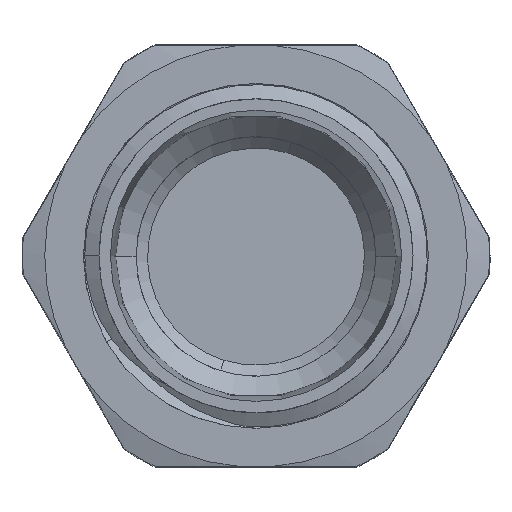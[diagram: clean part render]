
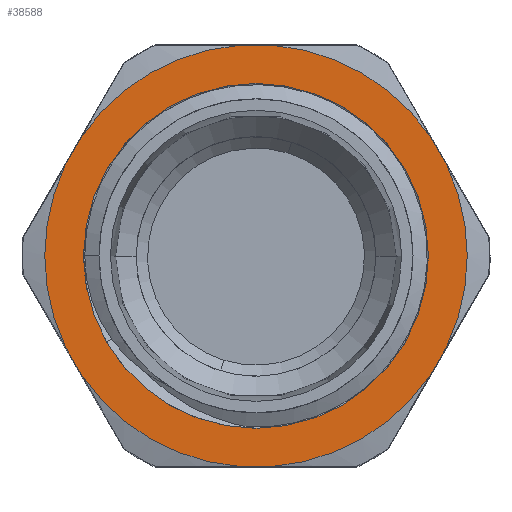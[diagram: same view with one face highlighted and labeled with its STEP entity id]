
A CAD part, top view. The second image highlights one B-rep face of the part: STEP entity #38588.
In plain terms, the highlighted planar face has unit normal (0, 0, 1).
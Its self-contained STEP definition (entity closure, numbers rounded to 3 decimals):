
#624 = VERTEX_POINT ( 'NONE', #7939 ) ;
#934 = VERTEX_POINT ( 'NONE', #31363 ) ;
#1098 = ORIENTED_EDGE ( 'NONE', *, *, #34465, .F. ) ;
#1140 = EDGE_LOOP ( 'NONE', ( #6735, #3898 ) ) ;
#1406 = CIRCLE ( 'NONE', #13004, 18.5 ) ;
#2571 = EDGE_CURVE ( 'NONE', #934, #21751, #50374, .T. ) ;
#2581 = ORIENTED_EDGE ( 'NONE', *, *, #43711, .F. ) ;
#2783 = PLANE ( 'NONE',  #26952 ) ;
#3362 = CARTESIAN_POINT ( 'NONE',  ( -10.681, -18.443, 6.5 ) ) ;
#3885 = DIRECTION ( 'NONE',  ( -0.5, -0.866, 0. ) ) ;
#3898 = ORIENTED_EDGE ( 'NONE', *, *, #39167, .F. ) ;
#4473 = AXIS2_PLACEMENT_3D ( 'NONE', #9083, #17730, #21648 ) ;
#4579 = ORIENTED_EDGE ( 'NONE', *, *, #24033, .F. ) ;
#5308 = DIRECTION ( 'NONE',  ( -1., 0., 0. ) ) ;
#5507 = CIRCLE ( 'NONE', #10872, 18.5 ) ;
#6288 = ORIENTED_EDGE ( 'NONE', *, *, #49929, .F. ) ;
#6321 = CARTESIAN_POINT ( 'NONE',  ( 1.448, 18.443, 6.5 ) ) ;
#6735 = ORIENTED_EDGE ( 'NONE', *, *, #31117, .F. ) ;
#7939 = CARTESIAN_POINT ( 'NONE',  ( 15.249, -10.475, 6.5 ) ) ;
#8743 = CARTESIAN_POINT ( 'NONE',  ( -16.696, -7.968, 6.5 ) ) ;
#9083 = CARTESIAN_POINT ( 'NONE',  ( 0., 0., 6.5 ) ) ;
#10220 = DIRECTION ( 'NONE',  ( 0., 1., 0. ) ) ;
#10729 = CIRCLE ( 'NONE', #41919, 18.5 ) ;
#10872 = AXIS2_PLACEMENT_3D ( 'NONE', #41726, #49550, #28910 ) ;
#11325 = AXIS2_PLACEMENT_3D ( 'NONE', #37824, #29160, #54500 ) ;
#11396 = CARTESIAN_POINT ( 'NONE',  ( -15.1, 0., 6.5 ) ) ;
#11442 = CARTESIAN_POINT ( 'NONE',  ( -1.448, 18.443, 6.5 ) ) ;
#12172 = DIRECTION ( 'NONE',  ( 0., 0., -1. ) ) ;
#13004 = AXIS2_PLACEMENT_3D ( 'NONE', #21391, #12172, #34509 ) ;
#13574 = DIRECTION ( 'NONE',  ( 0., 0., -1. ) ) ;
#14002 = CIRCLE ( 'NONE', #11325, 18.5 ) ;
#14527 = VERTEX_POINT ( 'NONE', #23982 ) ;
#15291 = EDGE_CURVE ( 'NONE', #17587, #14527, #50787, .T. ) ;
#15468 = CARTESIAN_POINT ( 'NONE',  ( -16.696, 7.968, 6.5 ) ) ;
#15924 = VERTEX_POINT ( 'NONE', #6321 ) ;
#16104 = VECTOR ( 'NONE', #5308, 1000. ) ;
#17587 = VERTEX_POINT ( 'NONE', #8743 ) ;
#17730 = DIRECTION ( 'NONE',  ( 0., 0., -1. ) ) ;
#17881 = CARTESIAN_POINT ( 'NONE',  ( 10.681, 18.443, 6.5 ) ) ;
#19662 = DIRECTION ( 'NONE',  ( -0.5, 0.866, 0. ) ) ;
#19932 = CARTESIAN_POINT ( 'NONE',  ( 21.313, -0.028, 6.5 ) ) ;
#20719 = ORIENTED_EDGE ( 'NONE', *, *, #50313, .T. ) ;
#20920 = DIRECTION ( 'NONE',  ( 1., 0., 0. ) ) ;
#21232 = CARTESIAN_POINT ( 'NONE',  ( -21.313, 0.028, 6.5 ) ) ;
#21391 = CARTESIAN_POINT ( 'NONE',  ( 0., 0., 6.5 ) ) ;
#21507 = EDGE_CURVE ( 'NONE', #624, #36782, #35236, .T. ) ;
#21648 = DIRECTION ( 'NONE',  ( 0., 1., 0. ) ) ;
#21659 = AXIS2_PLACEMENT_3D ( 'NONE', #37195, #28802, #27710 ) ;
#21751 = VERTEX_POINT ( 'NONE', #11442 ) ;
#21932 = CARTESIAN_POINT ( 'NONE',  ( 1.448, -18.443, 6.5 ) ) ;
#22670 = DIRECTION ( 'NONE',  ( 0.5, 0.866, 0. ) ) ;
#22926 = VERTEX_POINT ( 'NONE', #25145 ) ;
#23210 = CIRCLE ( 'NONE', #4473, 18.5 ) ;
#23574 = LINE ( 'NONE', #19932, #29605 ) ;
#23982 = CARTESIAN_POINT ( 'NONE',  ( -15.249, -10.475, 6.5 ) ) ;
#24033 = EDGE_CURVE ( 'NONE', #17587, #50347, #23210, .T. ) ;
#25092 = DIRECTION ( 'NONE',  ( 0., 1., 0. ) ) ;
#25145 = CARTESIAN_POINT ( 'NONE',  ( 15.1, 0., 6.5 ) ) ;
#25149 = LINE ( 'NONE', #3362, #26706 ) ;
#25473 = AXIS2_PLACEMENT_3D ( 'NONE', #26973, #13574, #10220 ) ;
#25959 = DIRECTION ( 'NONE',  ( 0.5, -0.866, 0. ) ) ;
#26706 = VECTOR ( 'NONE', #33528, 1000. ) ;
#26952 = AXIS2_PLACEMENT_3D ( 'NONE', #27358, #50181, #20920 ) ;
#26973 = CARTESIAN_POINT ( 'NONE',  ( 0., 0., 6.5 ) ) ;
#27358 = CARTESIAN_POINT ( 'NONE',  ( 0., 0., 6.5 ) ) ;
#27710 = DIRECTION ( 'NONE',  ( 1., 0., 0. ) ) ;
#28034 = VECTOR ( 'NONE', #25959, 1000. ) ;
#28802 = DIRECTION ( 'NONE',  ( 0., 0., 1. ) ) ;
#28910 = DIRECTION ( 'NONE',  ( 0., 1., 0. ) ) ;
#29160 = DIRECTION ( 'NONE',  ( 0., 0., -1. ) ) ;
#29258 = CARTESIAN_POINT ( 'NONE',  ( 0., 0., 6.5 ) ) ;
#29605 = VECTOR ( 'NONE', #19662, 1000. ) ;
#30157 = LINE ( 'NONE', #17881, #16104 ) ;
#31117 = EDGE_CURVE ( 'NONE', #22926, #42724, #31711, .T. ) ;
#31363 = CARTESIAN_POINT ( 'NONE',  ( -15.249, 10.475, 6.5 ) ) ;
#31711 = CIRCLE ( 'NONE', #45929, 15.1 ) ;
#31876 = EDGE_CURVE ( 'NONE', #32728, #36782, #1406, .T. ) ;
#32379 = FACE_BOUND ( 'NONE', #1140, .T. ) ;
#32728 = VERTEX_POINT ( 'NONE', #38293 ) ;
#33528 = DIRECTION ( 'NONE',  ( 1., 0., 0. ) ) ;
#33838 = EDGE_CURVE ( 'NONE', #934, #50347, #34057, .T. ) ;
#34057 = LINE ( 'NONE', #46551, #48721 ) ;
#34154 = CIRCLE ( 'NONE', #21659, 15.1 ) ;
#34465 = EDGE_CURVE ( 'NONE', #624, #50100, #14002, .T. ) ;
#34509 = DIRECTION ( 'NONE',  ( 0., 1., 0. ) ) ;
#35236 = LINE ( 'NONE', #46920, #45279 ) ;
#35514 = ORIENTED_EDGE ( 'NONE', *, *, #46368, .T. ) ;
#36683 = CARTESIAN_POINT ( 'NONE',  ( 16.696, -7.968, 6.5 ) ) ;
#36782 = VERTEX_POINT ( 'NONE', #36683 ) ;
#37195 = CARTESIAN_POINT ( 'NONE',  ( 0., 0., 6.5 ) ) ;
#37454 = CARTESIAN_POINT ( 'NONE',  ( 15.249, 10.475, 6.5 ) ) ;
#37824 = CARTESIAN_POINT ( 'NONE',  ( 0., 0., 6.5 ) ) ;
#38293 = CARTESIAN_POINT ( 'NONE',  ( 16.696, 7.968, 6.5 ) ) ;
#38588 = ADVANCED_FACE ( 'NONE', ( #32379, #45175 ), #2783, .T. ) ;
#39167 = EDGE_CURVE ( 'NONE', #42724, #22926, #34154, .T. ) ;
#39698 = CARTESIAN_POINT ( 'NONE',  ( -1.448, -18.443, 6.5 ) ) ;
#41162 = VERTEX_POINT ( 'NONE', #39698 ) ;
#41726 = CARTESIAN_POINT ( 'NONE',  ( 0., 0., 6.5 ) ) ;
#41919 = AXIS2_PLACEMENT_3D ( 'NONE', #29258, #46257, #25092 ) ;
#42724 = VERTEX_POINT ( 'NONE', #11396 ) ;
#43185 = DIRECTION ( 'NONE',  ( 1., 0., 0. ) ) ;
#43711 = EDGE_CURVE ( 'NONE', #41162, #14527, #10729, .T. ) ;
#45175 = FACE_OUTER_BOUND ( 'NONE', #52081, .T. ) ;
#45279 = VECTOR ( 'NONE', #22670, 1000. ) ;
#45929 = AXIS2_PLACEMENT_3D ( 'NONE', #47373, #51558, #43185 ) ;
#46257 = DIRECTION ( 'NONE',  ( 0., 0., -1. ) ) ;
#46368 = EDGE_CURVE ( 'NONE', #41162, #50100, #25149, .T. ) ;
#46551 = CARTESIAN_POINT ( 'NONE',  ( -10.632, 18.472, 6.5 ) ) ;
#46691 = ORIENTED_EDGE ( 'NONE', *, *, #31876, .F. ) ;
#46920 = CARTESIAN_POINT ( 'NONE',  ( 10.632, -18.472, 6.5 ) ) ;
#47373 = CARTESIAN_POINT ( 'NONE',  ( 0., 0., 6.5 ) ) ;
#47664 = ORIENTED_EDGE ( 'NONE', *, *, #2571, .F. ) ;
#47681 = EDGE_CURVE ( 'NONE', #15924, #21751, #30157, .T. ) ;
#48721 = VECTOR ( 'NONE', #3885, 1000. ) ;
#49550 = DIRECTION ( 'NONE',  ( 0., 0., -1. ) ) ;
#49929 = EDGE_CURVE ( 'NONE', #15924, #52093, #5507, .T. ) ;
#50100 = VERTEX_POINT ( 'NONE', #21932 ) ;
#50181 = DIRECTION ( 'NONE',  ( 0., 0., 1. ) ) ;
#50313 = EDGE_CURVE ( 'NONE', #32728, #52093, #23574, .T. ) ;
#50347 = VERTEX_POINT ( 'NONE', #15468 ) ;
#50374 = CIRCLE ( 'NONE', #25473, 18.5 ) ;
#50787 = LINE ( 'NONE', #21232, #28034 ) ;
#50829 = ORIENTED_EDGE ( 'NONE', *, *, #15291, .T. ) ;
#50981 = ORIENTED_EDGE ( 'NONE', *, *, #47681, .T. ) ;
#51558 = DIRECTION ( 'NONE',  ( 0., 0., 1. ) ) ;
#52009 = ORIENTED_EDGE ( 'NONE', *, *, #33838, .T. ) ;
#52081 = EDGE_LOOP ( 'NONE', ( #1098, #53888, #46691, #20719, #6288, #50981, #47664, #52009, #4579, #50829, #2581, #35514 ) ) ;
#52093 = VERTEX_POINT ( 'NONE', #37454 ) ;
#53888 = ORIENTED_EDGE ( 'NONE', *, *, #21507, .T. ) ;
#54500 = DIRECTION ( 'NONE',  ( 0., 1., 0. ) ) ;
